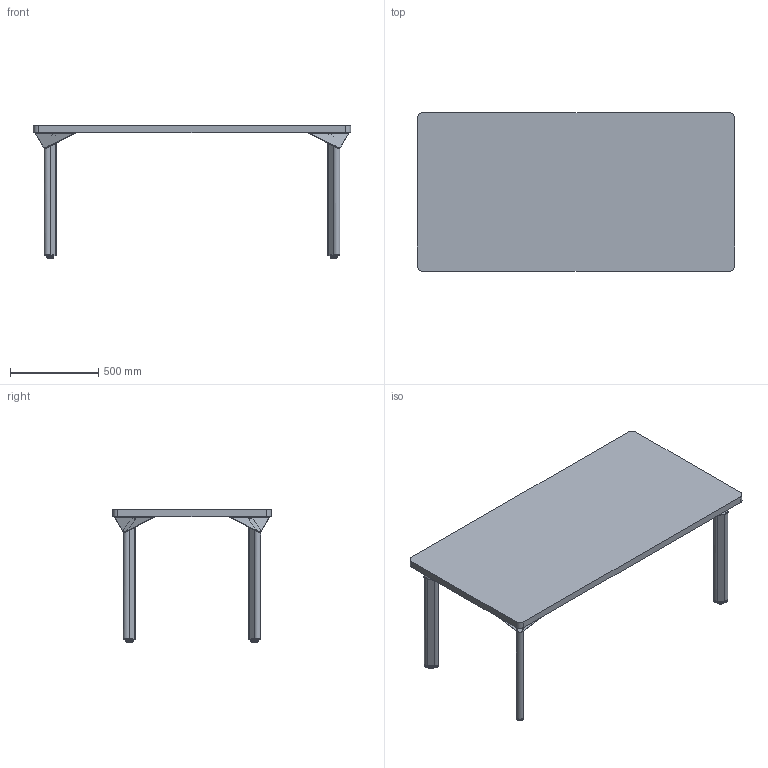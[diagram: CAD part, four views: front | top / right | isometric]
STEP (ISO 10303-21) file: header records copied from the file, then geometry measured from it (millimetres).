
FILE_DESCRIPTION(('STEP AP203'),'2;1');
FILE_NAME('JL014V_JL-SCRIVANIA DIREZ-CON GAMBE METAL-L=1800 P=900.stp','2021-12-16T15:28:47',(''),(''),'2019.1.123','THINKDESIGN','');
FILE_SCHEMA(('CONFIG_CONTROL_DESIGN'));
Length unit declared in the file: millimetre
Bounding box: 1800 x 900 x 750 mm (x, y, z)
Volume: 66576100.7 mm3; surface area: 4921627 mm2
Topology: 25 solids, 25 shells, 442 faces, 1140 edges, 800 vertices
Faces by surface type: plane 258, cylinder 132, bspline 52
Full cylindrical faces by diameter (mm): 5 x16, 6.75 x4, 8 x40, 10 x8, 35 x4
Entity records: 20273 total; most frequent: CARTESIAN_POINT 8794, DIRECTION 2456, ORIENTED_EDGE 2280, EDGE_CURVE 1140, AXIS2_PLACEMENT_3D 926, VERTEX_POINT 800, VECTOR 604, LINE 604
